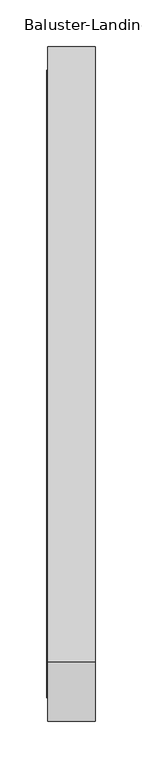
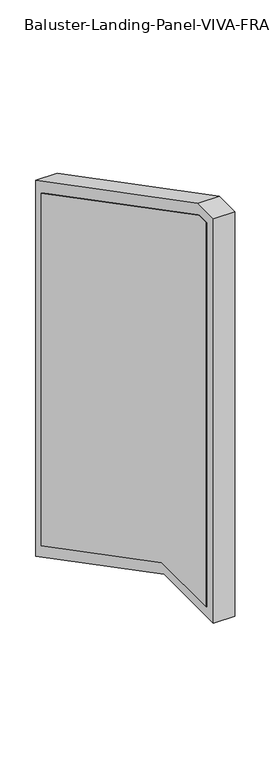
"""IFC4 building model written with IfcOpenShell, lengths in millimetres: railing geometry, Baluster-Landing-Panel-VIVA-FRAME-Lower : Standard_PP01."""

from ifc_helpers import new_model, si_unit, frame, origin, place, context, project, spatial, polyline, outline, extrude, faceted_brep, source, transform, mapped, element, save


def baluster_landing_panel_viva_frame_lower_standard_pp01_cf8df011(model_context):
    return source(origin(), model_context, "Body", "SolidModel", [
        extrude(outline(polyline([(-517.599583, -48.5312648), (-698.8556, -48.5312648), (-698.8556, 906.145), (-666.7921801, 906.145), (-25.4, 572.2573646), (-25.4, -304.75415), (-517.599583, -48.5312648)])), frame((14.2584857, 0.0, 0.0), z_axis=(1.0, 0.0, 0.0), x_axis=(0.0, 1.0, 0.0)), (0.0, 0.0, 1.0), 2.9972),
        faceted_brep([(35.6827057, -5.9329371, -336.8348769), (66.4929057, -5.9329371, -336.8348769), (66.4929057, -5.9329371, 584.0702684), (35.6827057, -5.9329371, 584.0702684), (15.6929057, -50.7385371, -262.9975333), (35.6827057, -50.7385371, -262.9975333), (35.6827057, -50.7385371, 556.8815628), (15.6929057, -50.7385371, 556.8815628), (66.4929057, 0.0614629, -346.7133423), (15.6929057, 0.0614629, -346.7133423), (15.6929057, 0.0614629, 587.7077596), (66.4929057, 0.0614629, 587.7077596), (66.4929057, -662.0286201, 925.6120629), (35.6827057, -662.0286201, 925.6120629), (35.6827057, -672.9924806, 880.8064629), (15.6929057, -672.9924806, 880.8064629), (15.6929057, -660.5617997, 931.6064629), (66.4929057, -660.5617997, 931.6064629), (66.4929057, -718.3226629, 925.6120629), (35.6827057, -718.3226629, 925.6120629), (35.6827057, -673.5170629, 880.8064629), (15.6929057, -673.5170629, 880.8064629), (15.6929057, -724.3170629, 931.6064629), (66.4929057, -724.3170629, 931.6064629), (66.4929057, -718.3226629, -67.9983278), (35.6827057, -718.3226629, -67.9983278), (35.6827057, -673.5170629, -23.1927278), (15.6929057, -673.5170629, -23.1927278), (15.6929057, -724.3170629, -73.9927278), (66.4929057, -724.3170629, -73.9927278), (66.4929057, -522.363143, -67.9983278), (35.6827057, -522.363143, -67.9983278), (35.6827057, -511.3992824, -23.1927278), (15.6929057, -511.3992824, -23.1927278), (15.6929057, -523.8299633, -73.9927278), (66.4929057, -523.8299633, -73.9927278)], [[[0, 1, 2, 3]], [[4, 5, 6, 7]], [[8, 9, 10, 11]], [[3, 2, 12, 13]], [[7, 6, 14, 15]], [[11, 10, 16, 17]], [[13, 12, 18, 19]], [[15, 14, 20, 21]], [[17, 16, 22, 23]], [[19, 18, 24, 25]], [[21, 20, 26, 27]], [[23, 22, 28, 29]], [[25, 24, 30, 31]], [[27, 26, 32, 33]], [[29, 28, 34, 35]], [[23, 29, 35, 8, 11, 17], [1, 30, 24, 18, 12, 2]], [[31, 30, 1, 0]], [[19, 25, 31, 0, 3, 13], [5, 32, 26, 20, 14, 6]], [[33, 32, 5, 4]], [[9, 34, 28, 22, 16, 10], [21, 27, 33, 4, 7, 15]], [[35, 34, 9, 8]]]),
    ])


if __name__ == "__main__":
    model = new_model("IFC4")
    model_context = context("Model", 3, world=origin())
    ifc_project = project(units=[si_unit("LENGTHUNIT", "METRE", prefix="MILLI")], contexts=[model_context])
    site = spatial("IfcSite", under=ifc_project)
    building = spatial("IfcBuilding", under=site)
    placement = place(None, origin())
    baluster_landing_panel_viva_frame_lower_standard_pp01_shape = baluster_landing_panel_viva_frame_lower_standard_pp01_cf8df011(model_context)
    element("IfcRailing", 1, ObjectType="Baluster-Landing-Panel-VIVA-FRAME-Lower : Standard_PP01", at=placement, inside=building, context=model_context, shape_type="MappedRepresentation", body=[
        mapped(baluster_landing_panel_viva_frame_lower_standard_pp01_shape, transform((0.0, 0.0, 0.0), x_axis=(1.0, 0.0, 0.0), y_axis=(0.0, 1.0, 0.0), z_axis=(0.0, 0.0, 1.0))),
    ])
    save(model, "model.ifc")
